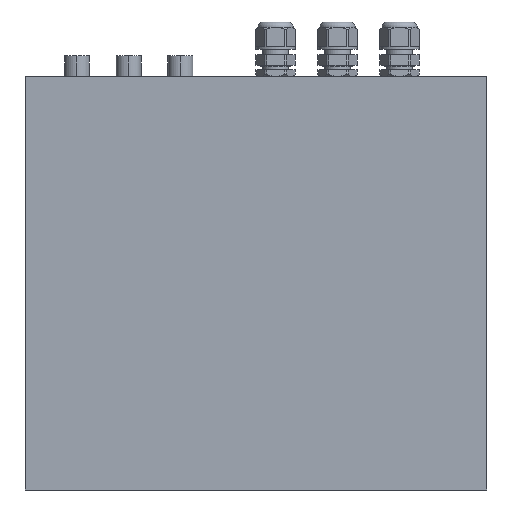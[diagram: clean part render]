
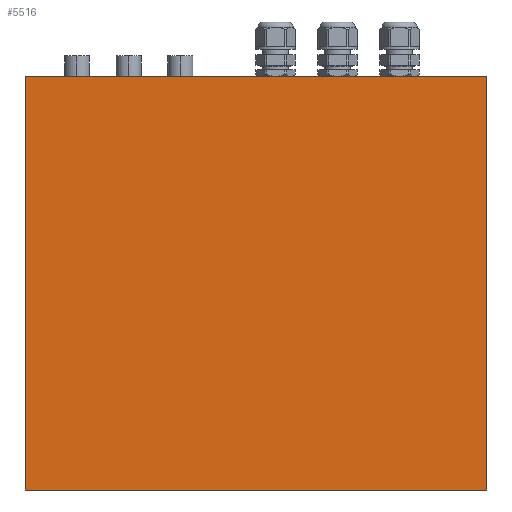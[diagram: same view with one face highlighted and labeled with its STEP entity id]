
A CAD part, front view. The second image highlights one B-rep face of the part: STEP entity #5516.
In plain terms, the highlighted planar face has unit normal (0, -1, 0).
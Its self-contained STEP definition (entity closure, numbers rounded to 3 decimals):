
#9=DIRECTION('',(1.,0.,0.));
#10=VECTOR('',#9,223.);
#11=CARTESIAN_POINT('',(-100.,-60.,0.));
#12=LINE('',#11,#10);
#52=DIRECTION('',(0.,0.,1.));
#53=VECTOR('',#52,200.);
#54=CARTESIAN_POINT('',(123.,-60.,0.));
#55=LINE('',#54,#53);
#156=DIRECTION('',(1.,0.,0.));
#157=VECTOR('',#156,223.);
#158=CARTESIAN_POINT('',(-100.,-60.,200.));
#159=LINE('',#158,#157);
#194=DIRECTION('',(0.,0.,1.));
#195=VECTOR('',#194,200.);
#196=CARTESIAN_POINT('',(-100.,-60.,0.));
#197=LINE('',#196,#195);
#4013=CARTESIAN_POINT('',(-100.,-60.,0.));
#4014=CARTESIAN_POINT('',(123.,-60.,0.));
#4015=VERTEX_POINT('',#4013);
#4016=VERTEX_POINT('',#4014);
#4017=CARTESIAN_POINT('',(-100.,-60.,200.));
#4018=CARTESIAN_POINT('',(123.,-60.,200.));
#4019=VERTEX_POINT('',#4017);
#4020=VERTEX_POINT('',#4018);
#5505=CARTESIAN_POINT('',(-100.,-60.,0.));
#5506=DIRECTION('',(0.,-1.,0.));
#5507=DIRECTION('',(1.,0.,0.));
#5508=AXIS2_PLACEMENT_3D('',#5505,#5506,#5507);
#5509=PLANE('',#5508);
#5510=ORIENTED_EDGE('',*,*,#5322,.F.);
#5511=ORIENTED_EDGE('',*,*,#5460,.T.);
#5512=ORIENTED_EDGE('',*,*,#5481,.T.);
#5513=ORIENTED_EDGE('',*,*,#5374,.F.);
#5514=EDGE_LOOP('',(#5510,#5511,#5512,#5513));
#5515=FACE_OUTER_BOUND('',#5514,.F.);
#5516=ADVANCED_FACE('',(#5515),#5509,.T.);
#5322=EDGE_CURVE('',#4015,#4016,#12,.T.);
#5374=EDGE_CURVE('',#4016,#4020,#55,.T.);
#5460=EDGE_CURVE('',#4015,#4019,#197,.T.);
#5481=EDGE_CURVE('',#4019,#4020,#159,.T.);
